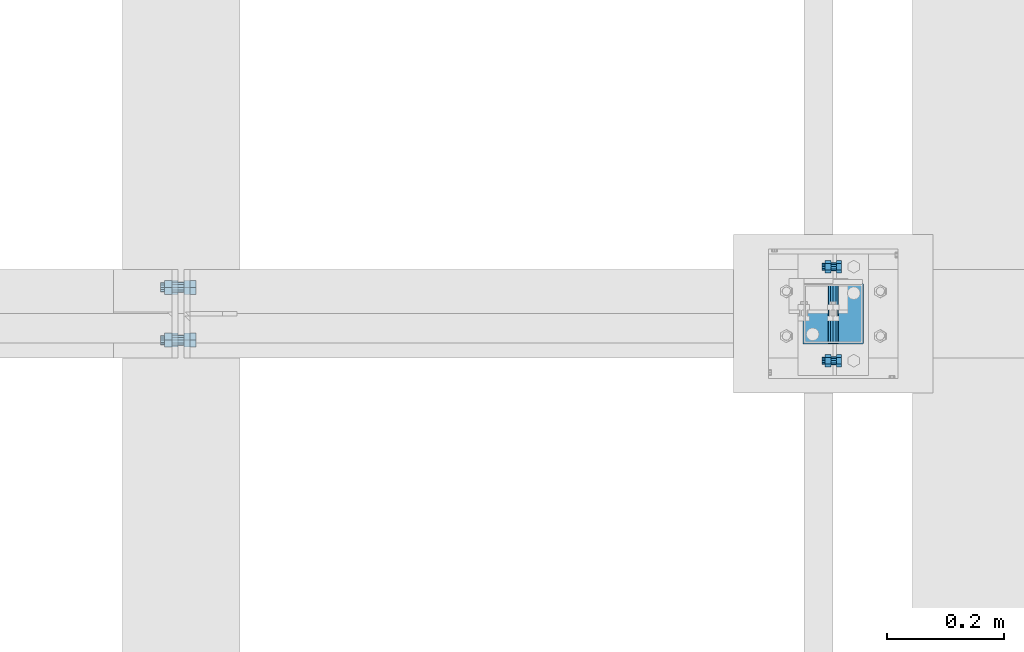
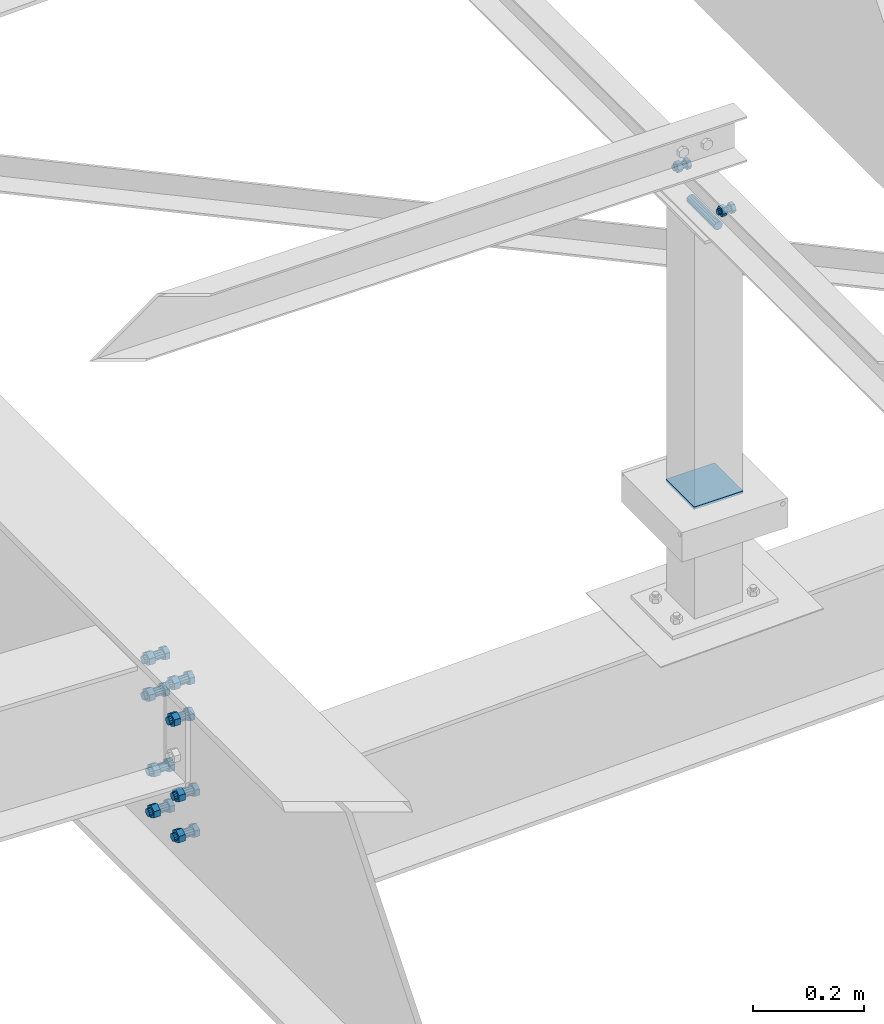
# One storey, part 174 of 3134: 7 mechanical fasteners, 3 elements without a shape of their own.
"""IFC2X3 building model written with IfcOpenShell, lengths in millimetres."""

import ifcopenshell
import ifcopenshell.guid

model = None  # the IFC model being written
_history = None  # IfcOwnerHistory: only IFC2X3 demands one
_inside = {}  # id of a spatial element -> (the spatial element, [elements in it])
_under = {}  # id of a project, library or spatial element -> (it, [spatial elements below it])
_declared = {}  # id of a project -> (the project, [libraries it declares])
_typed = {}  # id of a type object -> (the type object, [elements of that type])
_made_of = {}  # id of a material, layer set ... -> (it, [elements and type objects made of it])


def new_model(schema):
    """Start an empty IFC model of exactly this schema.

    Asked for "IFC4X3", IfcOpenShell would pick the latest addendum, in which some entities
    have other attributes; the version numbers below select the first issue.
    IFC2X3 requires an IfcOwnerHistory on every rooted entity: one is made here for all.
    """
    global model, _history
    if schema == "IFC4X3":
        model = ifcopenshell.file(schema_version=(4, 3, 0, 0))
    else:
        model = ifcopenshell.file(schema=schema)
    _inside.clear()
    _under.clear()
    _declared.clear()
    _typed.clear()
    _made_of.clear()
    _history = None
    if model.schema == "IFC2X3":
        org = make("IfcOrganization", Name="unknown")
        user = make(
            "IfcPersonAndOrganization",
            ThePerson=make("IfcPerson", FamilyName="unknown"),
            TheOrganization=org,
        )
        app = make(
            "IfcApplication",
            ApplicationDeveloper=org,
            Version="unknown",
            ApplicationFullName="unknown",
            ApplicationIdentifier="unknown",
        )
        _history = make(
            "IfcOwnerHistory",
            OwningUser=user,
            OwningApplication=app,
            ChangeAction="ADDED",
            CreationDate=0,
        )
    return model


def make(cls, **values):
    """One entity of the class cls with the attributes given. An attribute that is None is left unset."""
    return model.create_entity(
        cls, **{name: value for name, value in values.items() if value is not None}
    )


def rooted(cls, **values):
    """An entity with a GlobalId (a new one), such as an element, a storey or a relation."""
    return make(cls, GlobalId=ifcopenshell.guid.new(), OwnerHistory=_history, **values)


def si_unit(unit_type, name, prefix=None):
    """IfcSIUnit, for example si_unit("LENGTHUNIT", "METRE", prefix="MILLI")."""
    return make("IfcSIUnit", UnitType=unit_type, Prefix=prefix, Name=name)


def assignment(units):
    """IfcUnitAssignment: the units of a project."""
    return None if units is None else make("IfcUnitAssignment", Units=units)


def point(xyz):
    """IfcCartesianPoint."""
    return None if xyz is None else make("IfcCartesianPoint", Coordinates=xyz)


def direction(xyz):
    """IfcDirection."""
    return None if xyz is None else make("IfcDirection", DirectionRatios=xyz)


def frame(location, z_axis=None, x_axis=None):
    """IfcAxis2Placement3D, a coordinate frame: its origin and axes. An axis left out is left unset."""
    return make(
        "IfcAxis2Placement3D",
        Location=point(location),
        Axis=direction(z_axis),
        RefDirection=direction(x_axis),
    )


def origin_with_axes():
    """The frame at (0, 0, 0) with the z axis (0, 0, 1) and the x axis (1, 0, 0) written out."""
    return frame((0.0, 0.0, 0.0), z_axis=(0.0, 0.0, 1.0), x_axis=(1.0, 0.0, 0.0))


def place(relative_to, where):
    """IfcLocalPlacement: puts the frame where relative to a parent placement (None: the world)."""
    return make(
        "IfcLocalPlacement", PlacementRelTo=relative_to, RelativePlacement=where
    )


def context(
    kind, dimensions, precision=None, world=None, true_north=None, identifier=None
):
    """IfcGeometricRepresentationContext, for example the 3D "Model" context."""
    return make(
        "IfcGeometricRepresentationContext",
        ContextIdentifier=identifier,
        ContextType=kind,
        CoordinateSpaceDimension=dimensions,
        Precision=precision,
        WorldCoordinateSystem=world,
        TrueNorth=true_north,
    )


def subcontext(parent, identifier, kind, view, scale=None):
    """IfcGeometricRepresentationSubContext, for example "Body" below "Model"."""
    return make(
        "IfcGeometricRepresentationSubContext",
        ContextIdentifier=identifier,
        ContextType=kind,
        ParentContext=parent,
        TargetScale=scale,
        TargetView=view,
    )


def project(units=None, contexts=None):
    """IfcProject with its units and contexts."""
    return rooted(
        "IfcProject",
        Name="project",
        RepresentationContexts=contexts,
        UnitsInContext=assignment(units),
    )


def spatial(cls, under=None, at=None, **own):
    """A site, building, storey or space (cls), placed at a placement, below another one or the project."""
    s = rooted(cls, ObjectPlacement=at, **own)
    if under is not None:
        _under.setdefault(under.id(), (under, []))[1].append(s)
    return s


def faces_of(points, faces, orient=None, outer=None):
    """IfcFace entities. A face is a list of loops; a loop is a list of indices into points, from 0.

    orient and outer hold one flag for each loop. By default every Orientation is true, the
    first loop of a face is its IfcFaceOuterBound and the others are IfcFaceBound.
    """
    made = []
    for i, loops in enumerate(faces):
        bounds = []
        for j, loop in enumerate(loops):
            is_outer = j == 0 if outer is None else outer[i][j]
            bounds.append(
                make(
                    "IfcFaceOuterBound" if is_outer else "IfcFaceBound",
                    Bound=make("IfcPolyLoop", Polygon=[points[k] for k in loop]),
                    Orientation=True if orient is None else orient[i][j],
                )
            )
        made.append(make("IfcFace", Bounds=bounds))
    return made


def faceted_brep(points, faces, orient=None, outer=None, voids=None):
    """IfcFacetedBrep: a solid bounded by flat faces; with voids (closed shells), ...WithVoids."""
    shared = [point(p) for p in points]
    hull = make("IfcClosedShell", CfsFaces=faces_of(shared, faces, orient, outer))
    if voids is None:
        return make("IfcFacetedBrep", Outer=hull)
    return make(
        "IfcFacetedBrepWithVoids",
        Outer=hull,
        Voids=[
            make(cls, CfsFaces=faces_of(shared, fs, o, b)) for cls, fs, o, b in voids
        ],
    )


def shape(context_of_items, identifier, shape_type, items):
    """IfcShapeRepresentation: the items that make up one representation, for example the "Body"."""
    return make(
        "IfcShapeRepresentation",
        ContextOfItems=context_of_items,
        RepresentationIdentifier=identifier,
        RepresentationType=shape_type,
        Items=items,
    )


def source(mapping_origin, context_of_items, identifier, shape_type, items):
    """IfcRepresentationMap: a shape defined once, which mapped items show again and again."""
    return make(
        "IfcRepresentationMap",
        MappingOrigin=mapping_origin,
        MappedRepresentation=shape(context_of_items, identifier, shape_type, items),
    )


def transform(
    local_origin,
    x_axis=None,
    y_axis=None,
    z_axis=None,
    scale=None,
    scale2=None,
    scale3=None,
    uniform=True,
):
    """IfcCartesianTransformationOperator3D, or its non-uniform kind. x_axis, y_axis, z_axis: its Axis1, 2, 3."""
    if uniform:
        return make(
            "IfcCartesianTransformationOperator3D",
            Axis1=direction(x_axis),
            Axis2=direction(y_axis),
            LocalOrigin=point(local_origin),
            Scale=scale,
            Axis3=direction(z_axis),
        )
    return make(
        "IfcCartesianTransformationOperator3DnonUniform",
        Axis1=direction(x_axis),
        Axis2=direction(y_axis),
        LocalOrigin=point(local_origin),
        Scale=scale,
        Axis3=direction(z_axis),
        Scale2=scale2,
        Scale3=scale3,
    )


def mapped(mapping_source, mapping_target):
    """IfcMappedItem: shows the shape of a source again, moved by a transform."""
    return make(
        "IfcMappedItem", MappingSource=mapping_source, MappingTarget=mapping_target
    )


def material(Name=None, Category=None):
    """IfcMaterial."""
    return make("IfcMaterial", Name=Name, Category=Category)


def made_of(thing, what):
    """Note that an element or type object is made of a material, layer set ...; save() writes the relation."""
    if what is not None:
        _made_of.setdefault(what.id(), (what, []))[1].append(thing)
    return thing


def type_object(cls, material=None, **own):
    """A type object (cls), such as IfcWallType, which elements share."""
    return made_of(rooted(cls, **own), material)


def element(
    cls,
    number,
    at=None,
    inside=None,
    cuts=None,
    type_object=None,
    material=None,
    context=None,
    identifier="Body",
    shape_type=None,
    held_by="IfcProductDefinitionShape",
    body=None,
    shapes=None,
    **own,
):
    """One element of the class cls, such as IfcWall. Its Tag is "e" and its number.

    at: its placement. inside: the storey or other place that contains it. cuts: it is an
    opening in that element (IfcRelVoidsElement). A single representation is given by context,
    identifier, shape_type and body (its items); several are given by shapes. held_by: the class
    of the entity that holds the representations. save() writes the other relations.
    """
    e = rooted(cls, Tag="e%d" % number, ObjectPlacement=at, **own)
    if body is not None:
        shapes = [shape(context, identifier, shape_type, body)]
    if shapes is not None:
        e.Representation = make(held_by, Representations=shapes)
    if inside is not None:
        _inside.setdefault(inside.id(), (inside, []))[1].append(e)
    if cuts is not None:
        rooted(
            "IfcRelVoidsElement", RelatingBuildingElement=cuts, RelatedOpeningElement=e
        )
    if type_object is not None:
        _typed.setdefault(type_object.id(), (type_object, []))[1].append(e)
    return made_of(e, material)


def aggregate(whole, parts):
    """IfcRelAggregates: a whole, such as a stair, and the parts it consists of."""
    return rooted("IfcRelAggregates", RelatingObject=whole, RelatedObjects=parts)


def save(model, path):
    """Write the relations noted so far, then the file.

    IfcRelAggregates (storeys below a building ...), IfcRelContainedInSpatialStructure (elements
    in a storey), IfcRelDefinesByType, IfcRelAssociatesMaterial and IfcRelDeclares: one each for
    every whole, place, type object, material and project.
    """
    for whole, parts in _under.values():
        aggregate(whole, parts)
    for where, things in _inside.values():
        rooted(
            "IfcRelContainedInSpatialStructure",
            RelatedElements=things,
            RelatingStructure=where,
        )
    for kind, things in _typed.values():
        rooted("IfcRelDefinesByType", RelatedObjects=things, RelatingType=kind)
    for what, things in _made_of.values():
        rooted("IfcRelAssociatesMaterial", RelatedObjects=things, RelatingMaterial=what)
    for by, libraries in _declared.values():
        rooted("IfcRelDeclares", RelatingContext=by, RelatedDefinitions=libraries)
    model.write(path)


model = new_model("IFC2X3")

# Units and contexts
model_context = context("Model", 3, precision=1e-05, world=origin_with_axes())
body_context = subcontext(model_context, "Body", "Model", "MODEL_VIEW")
ifc_project = project(units=[si_unit("LENGTHUNIT", "METRE", prefix="MILLI"), si_unit("AREAUNIT", "SQUARE_METRE"), si_unit("VOLUMEUNIT", "CUBIC_METRE"), si_unit("MASSUNIT", "GRAM", prefix="KILO"), si_unit("TIMEUNIT", "SECOND"), si_unit("PLANEANGLEUNIT", "RADIAN"), si_unit("SOLIDANGLEUNIT", "STERADIAN"), si_unit("THERMODYNAMICTEMPERATUREUNIT", "DEGREE_CELSIUS"), si_unit("LUMINOUSINTENSITYUNIT", "LUMEN")], contexts=[model_context])

# Site, building, storey
site_placement = place(None, origin_with_axes())
site = spatial("IfcSite", under=ifc_project, at=site_placement, CompositionType="ELEMENT")
building_placement = place(site_placement, origin_with_axes())
building = spatial("IfcBuilding", under=site, at=building_placement, Name="Undefined", CompositionType="ELEMENT")
storey_placement = place(building_placement, origin_with_axes())
storey = spatial("IfcBuildingStorey", under=building, at=storey_placement, Name="Undefined", CompositionType="ELEMENT", Elevation=0.0)

# Assembly, mechanical fastener
assembly_1_placement = place(storey_placement, origin_with_axes())
assembly_1 = element("IfcElementAssembly", 1, at=assembly_1_placement, inside=storey, AssemblyPlace="NOTDEFINED", PredefinedType="RIGID_FRAME")
ifc_material_1 = material(Name="8.8")
mechanical_fastener_type = type_object("IfcMechanicalFastenerType", Name="Bolt assembly")
shared_shape_1 = source(origin_with_axes(), body_context, "Body", "Brep", [
    faceted_brep([(10.9696551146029, -14.0, 0.0), (5.48482755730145, -14.0, 9.5), (-5.48482755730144, -14.0, 9.5), (-10.9696551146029, -14.0, 1.34339530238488e-15), (-5.48482755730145, -14.0, -9.5), (5.48482755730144, -14.0, -9.50000000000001), (5.48482755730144, -6.0, -9.50000000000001), (-5.48482755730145, -6.0, -9.5), (-10.9696551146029, -6.0, 1.34339530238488e-15), (-5.48482755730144, -6.0, 9.5), (5.48482755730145, -6.0, 9.5), (10.9696551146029, -6.0, 0.0), (6.0, -6.0, 0.0), (5.19615242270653, -6.0, 3.00000000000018), (2.99999999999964, -6.0, 5.19615242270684), (-6.21801588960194e-13, -6.0, 6.0), (-3.00000000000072, -6.0, 5.19615242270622), (-5.19615242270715, -6.0, 2.9999999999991), (-6.0, -6.0, -1.24360317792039e-12), (-5.19615242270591, -6.0, -3.00000000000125), (-2.99999999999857, -6.0, -5.19615242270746), (1.85874342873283e-12, -6.0, -6.0), (3.00000000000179, -6.0, -5.1961524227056), (5.19615242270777, -6.0, -2.99999999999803), (5.19615242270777, 19.0, -2.99999999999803), (3.00000000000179, 19.0, -5.1961524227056), (1.85874342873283e-12, 19.0, -6.0), (-2.99999999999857, 19.0, -5.19615242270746), (-5.19615242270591, 19.0, -3.00000000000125), (-6.0, 19.0, -1.24360317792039e-12), (-5.19615242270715, 19.0, 2.9999999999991), (-3.00000000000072, 19.0, 5.19615242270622), (-6.21801588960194e-13, 19.0, 6.0), (2.99999999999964, 19.0, 5.19615242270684), (5.19615242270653, 19.0, 3.00000000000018), (6.0, 19.0, 0.0), (10.9696551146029, 4.00000000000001, 0.0), (5.48482755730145, 4.00000000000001, 9.5), (-5.48482755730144, 4.00000000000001, 9.5), (-10.9696551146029, 4.00000000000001, 1.34339530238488e-15), (-5.48482755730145, 4.00000000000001, -9.5), (5.48482755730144, 4.00000000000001, -9.50000000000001), (5.48482755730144, 14.0, -9.50000000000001), (-5.48482755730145, 14.0, -9.5), (-10.9696551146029, 14.0, 1.34339530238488e-15), (-5.48482755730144, 14.0, 9.5), (5.48482755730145, 14.0, 9.5), (10.9696551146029, 14.0, 0.0)], [[[0, 1, 2, 3, 4, 5]], [[6, 7, 8, 9, 10, 11]], [[0, 11, 10, 1]], [[1, 10, 9, 2]], [[2, 9, 8, 3]], [[3, 8, 7, 4]], [[4, 7, 6, 5]], [[5, 6, 11, 0]], [[12, 13, 14, 15, 16, 17, 18, 19, 20, 21, 22, 23]], [[24, 25, 26, 27, 28, 29, 30, 31, 32, 33, 34, 35]], [[12, 35, 34, 13]], [[13, 34, 33, 14]], [[14, 33, 32, 15]], [[15, 32, 31, 16]], [[16, 31, 30, 17]], [[17, 30, 29, 18]], [[18, 29, 28, 19]], [[19, 28, 27, 20]], [[20, 27, 26, 21]], [[21, 26, 25, 22]], [[22, 25, 24, 23]], [[23, 24, 35, 12]], [[36, 37, 38, 39, 40, 41]], [[42, 43, 44, 45, 46, 47]], [[36, 47, 46, 37]], [[37, 46, 45, 38]], [[38, 45, 44, 39]], [[39, 44, 43, 40]], [[40, 43, 42, 41]], [[41, 42, 47, 36]]]),
    faceted_brep([(7.0, -0.1, 0.0), (6.06217782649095, -0.1, 3.50000000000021), (3.49999999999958, -0.1, 6.06217782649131), (-7.25435187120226e-13, -0.1, 7.0), (-3.50000000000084, -0.1, 6.06217782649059), (-6.06217782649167, -0.1, 3.49999999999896), (-7.0, -0.1, -1.45087037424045e-12), (-6.06217782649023, -0.1, -3.50000000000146), (-3.49999999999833, -0.1, -6.06217782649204), (2.1685340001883e-12, -0.1, -7.0), (3.50000000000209, -0.1, -6.06217782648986), (6.0621778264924, -0.1, -3.4999999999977), (6.0621778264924, 4.00000000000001, -3.4999999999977), (3.50000000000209, 4.00000000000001, -6.06217782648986), (2.1685340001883e-12, 4.00000000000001, -7.0), (-3.49999999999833, 4.00000000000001, -6.06217782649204), (-6.06217782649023, 4.00000000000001, -3.50000000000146), (-7.0, 4.00000000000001, -1.45087037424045e-12), (-6.06217782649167, 4.00000000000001, 3.49999999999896), (-3.50000000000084, 4.00000000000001, 6.06217782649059), (-7.25435187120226e-13, 4.00000000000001, 7.0), (3.49999999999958, 4.00000000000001, 6.06217782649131), (6.06217782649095, 4.00000000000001, 3.50000000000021), (7.0, 4.00000000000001, 0.0), (7.0, -5.9, 0.0), (6.06217782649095, -5.9, 3.50000000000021), (3.49999999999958, -5.9, 6.06217782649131), (-7.25435187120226e-13, -5.9, 7.0), (-3.50000000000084, -5.9, 6.06217782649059), (-6.06217782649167, -5.9, 3.49999999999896), (-7.0, -5.9, -1.45087037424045e-12), (-6.06217782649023, -5.9, -3.50000000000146), (-3.49999999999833, -5.9, -6.06217782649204), (2.1685340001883e-12, -5.9, -7.0), (3.50000000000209, -5.9, -6.06217782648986), (6.0621778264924, -5.9, -3.4999999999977), (6.0621778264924, 0.0999999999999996, -3.4999999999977), (3.50000000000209, 0.0999999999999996, -6.06217782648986), (2.1685340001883e-12, 0.0999999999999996, -7.0), (-3.49999999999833, 0.0999999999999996, -6.06217782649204), (-6.06217782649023, 0.0999999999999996, -3.50000000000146), (-7.0, 0.0999999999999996, -1.45087037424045e-12), (-6.06217782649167, 0.0999999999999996, 3.49999999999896), (-3.50000000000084, 0.0999999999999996, 6.06217782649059), (-7.25435187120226e-13, 0.0999999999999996, 7.0), (3.49999999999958, 0.0999999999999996, 6.06217782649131), (6.06217782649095, 0.0999999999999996, 3.50000000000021), (7.0, 0.0999999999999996, 0.0)], [[[0, 1, 2, 3, 4, 5, 6, 7, 8, 9, 10, 11]], [[12, 13, 14, 15, 16, 17, 18, 19, 20, 21, 22, 23]], [[0, 23, 22, 1]], [[1, 22, 21, 2]], [[2, 21, 20, 3]], [[3, 20, 19, 4]], [[4, 19, 18, 5]], [[5, 18, 17, 6]], [[6, 17, 16, 7]], [[7, 16, 15, 8]], [[8, 15, 14, 9]], [[9, 14, 13, 10]], [[10, 13, 12, 11]], [[11, 12, 23, 0]], [[24, 25, 26, 27, 28, 29, 30, 31, 32, 33, 34, 35]], [[36, 37, 38, 39, 40, 41, 42, 43, 44, 45, 46, 47]], [[24, 47, 46, 25]], [[25, 46, 45, 26]], [[26, 45, 44, 27]], [[27, 44, 43, 28]], [[28, 43, 42, 29]], [[29, 42, 41, 30]], [[30, 41, 40, 31]], [[31, 40, 39, 32]], [[32, 39, 38, 33]], [[33, 38, 37, 34]], [[34, 37, 36, 35]], [[35, 36, 47, 24]]]),
])
mechanical_fastener_1_placement = place(assembly_1_placement, frame((10405.0, 32163.75, 4300.0), z_axis=(0.0, 0.0, 1.0), x_axis=(0.0, 1.0, 0.0)))
mechanical_fastener_1 = element("IfcMechanicalFastener", 2, at=mechanical_fastener_1_placement, type_object=mechanical_fastener_type, material=ifc_material_1, Name="Bolt assembly", NominalDiameter=12.0, NominalLength=25.0, context=body_context, shape_type="MappedRepresentation", body=[
    mapped(shared_shape_1, transform((0.0, 0.0, 0.0))),
    mapped(shared_shape_1, transform((160.0, 0.0, 0.0))),
])
aggregate(assembly_1, [mechanical_fastener_1])

# Assembly, mechanical fasteners
assembly_2_placement = place(storey_placement, origin_with_axes())
assembly_2 = element("IfcElementAssembly", 3, at=assembly_2_placement, inside=storey, Name="IPE500", AssemblyPlace="NOTDEFINED", PredefinedType="RIGID_FRAME")
shared_shape_2 = source(origin_with_axes(), body_context, "Body", "Brep", [
    faceted_brep([(13.856406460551, 0.0, 0.0), (6.92820323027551, 0.0, 12.0), (-6.92820323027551, 0.0, 12.0), (-13.856406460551, 0.0, 1.69692038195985e-15), (-6.92820323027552, 0.0, -12.0), (6.9282032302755, 0.0, -12.0), (6.9282032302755, 9.99999995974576, -12.0), (-6.92820323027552, 9.99999995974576, -12.0), (-13.856406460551, 9.99999995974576, 1.69692038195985e-15), (-6.92820323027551, 9.99999995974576, 12.0), (6.92820323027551, 9.99999995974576, 12.0), (13.856406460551, 9.99999995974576, 0.0), (8.0, 9.99999995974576, 0.0), (6.92820323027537, 9.99999995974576, 4.00000000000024), (3.99999999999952, 9.99999995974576, 6.92820323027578), (-8.29068785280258e-13, 9.99999995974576, 8.0), (-4.00000000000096, 9.99999995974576, 6.92820323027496), (-6.9282032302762, 9.99999995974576, 3.99999999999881), (-8.0, 9.99999995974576, -1.65813757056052e-12), (-6.92820323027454, 9.99999995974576, -4.00000000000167), (-3.99999999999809, 9.99999995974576, -6.92820323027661), (2.47832457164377e-12, 9.99999995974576, -8.0), (4.00000000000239, 9.99999995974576, -6.92820323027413), (6.92820323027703, 9.99999995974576, -3.99999999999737), (6.92820323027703, 49.9999999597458, -3.99999999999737), (4.00000000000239, 49.9999999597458, -6.92820323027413), (2.47832457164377e-12, 49.9999999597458, -8.0), (-3.99999999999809, 49.9999999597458, -6.92820323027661), (-6.92820323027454, 49.9999999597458, -4.00000000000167), (-8.0, 49.9999999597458, -1.65813757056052e-12), (-6.9282032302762, 49.9999999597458, 3.99999999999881), (-4.00000000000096, 49.9999999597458, 6.92820323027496), (-8.29068785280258e-13, 49.9999999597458, 8.0), (3.99999999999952, 49.9999999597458, 6.92820323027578), (6.92820323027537, 49.9999999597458, 4.00000000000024), (8.0, 49.9999999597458, 0.0), (13.856406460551, 30.1999997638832, 0.0), (6.92820323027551, 30.1999997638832, 12.0), (-6.92820323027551, 30.1999997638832, 12.0), (-13.856406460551, 30.1999997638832, 1.69692038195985e-15), (-6.92820323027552, 30.1999997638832, -12.0), (6.9282032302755, 30.1999997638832, -12.0), (6.9282032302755, 43.1999997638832, -12.0), (-6.92820323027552, 43.1999997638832, -12.0), (-13.856406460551, 43.1999997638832, 1.69692038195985e-15), (-6.92820323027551, 43.1999997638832, 12.0), (6.92820323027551, 43.1999997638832, 12.0), (13.856406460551, 43.1999997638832, 0.0)], [[[0, 1, 2, 3, 4, 5]], [[6, 7, 8, 9, 10, 11]], [[0, 11, 10, 1]], [[1, 10, 9, 2]], [[2, 9, 8, 3]], [[3, 8, 7, 4]], [[4, 7, 6, 5]], [[5, 6, 11, 0]], [[12, 13, 14, 15, 16, 17, 18, 19, 20, 21, 22, 23]], [[24, 25, 26, 27, 28, 29, 30, 31, 32, 33, 34, 35]], [[12, 35, 34, 13]], [[13, 34, 33, 14]], [[14, 33, 32, 15]], [[15, 32, 31, 16]], [[16, 31, 30, 17]], [[17, 30, 29, 18]], [[18, 29, 28, 19]], [[19, 28, 27, 20]], [[20, 27, 26, 21]], [[21, 26, 25, 22]], [[22, 25, 24, 23]], [[23, 24, 35, 12]], [[36, 37, 38, 39, 40, 41]], [[42, 43, 44, 45, 46, 47]], [[36, 47, 46, 37]], [[37, 46, 45, 38]], [[38, 45, 44, 39]], [[39, 44, 43, 40]], [[40, 43, 42, 41]], [[41, 42, 47, 36]]]),
    faceted_brep([(9.0, 20.0999997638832, 0.0), (7.79422863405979, 20.0999997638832, 4.50000000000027), (4.49999999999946, 20.0999997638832, 7.79422863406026), (-9.3270238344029e-13, 20.0999997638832, 9.0), (-4.50000000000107, 20.0999997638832, 7.79422863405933), (-7.79422863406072, 20.0999997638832, 4.49999999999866), (-9.0, 20.0999997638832, -1.86540476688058e-12), (-7.79422863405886, 20.0999997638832, -4.50000000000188), (-4.49999999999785, 20.0999997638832, -7.79422863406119), (2.78811514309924e-12, 20.0999997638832, -9.0), (4.50000000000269, 20.0999997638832, -7.7942286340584), (7.79422863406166, 20.0999997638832, -4.49999999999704), (7.79422863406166, 30.1999997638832, -4.49999999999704), (4.50000000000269, 30.1999997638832, -7.7942286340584), (2.78811514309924e-12, 30.1999997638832, -9.0), (-4.49999999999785, 30.1999997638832, -7.79422863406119), (-7.79422863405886, 30.1999997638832, -4.50000000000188), (-9.0, 30.1999997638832, -1.86540476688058e-12), (-7.79422863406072, 30.1999997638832, 4.49999999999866), (-4.50000000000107, 30.1999997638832, 7.79422863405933), (-9.3270238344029e-13, 30.1999997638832, 9.0), (4.49999999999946, 30.1999997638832, 7.79422863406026), (7.79422863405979, 30.1999997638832, 4.50000000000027), (9.0, 30.1999997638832, 0.0), (9.0, 10.1000023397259, 0.0), (7.79422863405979, 10.1000023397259, 4.50000000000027), (4.49999999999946, 10.1000023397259, 7.79422863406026), (-9.3270238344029e-13, 10.1000023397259, 9.0), (-4.50000000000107, 10.1000023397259, 7.79422863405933), (-7.79422863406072, 10.1000023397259, 4.49999999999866), (-9.0, 10.1000023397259, -1.86540476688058e-12), (-7.79422863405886, 10.1000023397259, -4.50000000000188), (-4.49999999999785, 10.1000023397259, -7.79422863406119), (2.78811514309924e-12, 10.1000023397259, -9.0), (4.50000000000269, 10.1000023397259, -7.7942286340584), (7.79422863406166, 10.1000023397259, -4.49999999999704), (7.79422863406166, 20.2999997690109, -4.49999999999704), (4.50000000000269, 20.2999997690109, -7.7942286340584), (2.78811514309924e-12, 20.2999997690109, -9.0), (-4.49999999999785, 20.2999997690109, -7.79422863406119), (-7.79422863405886, 20.2999997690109, -4.50000000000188), (-9.0, 20.2999997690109, -1.86540476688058e-12), (-7.79422863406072, 20.2999997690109, 4.49999999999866), (-4.50000000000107, 20.2999997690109, 7.79422863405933), (-9.3270238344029e-13, 20.2999997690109, 9.0), (4.49999999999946, 20.2999997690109, 7.79422863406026), (7.79422863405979, 20.2999997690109, 4.50000000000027), (9.0, 20.2999997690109, 0.0)], [[[0, 1, 2, 3, 4, 5, 6, 7, 8, 9, 10, 11]], [[12, 13, 14, 15, 16, 17, 18, 19, 20, 21, 22, 23]], [[0, 23, 22, 1]], [[1, 22, 21, 2]], [[2, 21, 20, 3]], [[3, 20, 19, 4]], [[4, 19, 18, 5]], [[5, 18, 17, 6]], [[6, 17, 16, 7]], [[7, 16, 15, 8]], [[8, 15, 14, 9]], [[9, 14, 13, 10]], [[10, 13, 12, 11]], [[11, 12, 23, 0]], [[24, 25, 26, 27, 28, 29, 30, 31, 32, 33, 34, 35]], [[36, 37, 38, 39, 40, 41, 42, 43, 44, 45, 46, 47]], [[24, 47, 46, 25]], [[25, 46, 45, 26]], [[26, 45, 44, 27]], [[27, 44, 43, 28]], [[28, 43, 42, 29]], [[29, 42, 41, 30]], [[30, 41, 40, 31]], [[31, 40, 39, 32]], [[32, 39, 38, 33]], [[33, 38, 37, 34]], [[34, 37, 36, 35]], [[35, 36, 47, 24]]]),
])
mechanical_fastener_2_placement = place(assembly_2_placement, frame((9310.09999986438, 32198.75, 3631.67000001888), z_axis=(0.0, 1.0, 0.0), x_axis=(0.0, 0.0, -1.0)))
mechanical_fastener_2 = element("IfcMechanicalFastener", 4, at=mechanical_fastener_2_placement, type_object=mechanical_fastener_type, material=ifc_material_1, Name="Bolt assembly", NominalDiameter=16.0, NominalLength=40.0, context=body_context, shape_type="MappedRepresentation", body=[
    mapped(shared_shape_2, transform((0.0, 0.0, 0.0))),
    mapped(shared_shape_2, transform((80.0, 0.0, 0.0))),
])
mechanical_fastener_3_placement = place(assembly_2_placement, frame((9310.09999986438, 32288.75, 3631.67000001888), z_axis=(0.0, 1.0, 0.0), x_axis=(0.0, 0.0, -1.0)))
mechanical_fastener_3 = element("IfcMechanicalFastener", 5, at=mechanical_fastener_3_placement, type_object=mechanical_fastener_type, material=ifc_material_1, Name="Bolt assembly", NominalDiameter=16.0, NominalLength=40.0, context=body_context, shape_type="MappedRepresentation", body=[
    mapped(shared_shape_2, transform((0.0, 0.0, 0.0))),
    mapped(shared_shape_2, transform((80.0, 0.0, 0.0))),
])
shared_shape_3 = source(origin_with_axes(), body_context, "Body", "Brep", [
    faceted_brep([(13.856406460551, -10.0, 0.0), (6.92820323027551, -10.0, 12.0), (-6.92820323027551, -10.0, 12.0), (-13.856406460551, -10.0, 1.69692038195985e-15), (-6.92820323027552, -10.0, -12.0), (6.9282032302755, -10.0, -12.0), (6.9282032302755, 0.0, -12.0), (-6.92820323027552, 0.0, -12.0), (-13.856406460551, 0.0, 1.69692038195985e-15), (-6.92820323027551, 0.0, 12.0), (6.92820323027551, 0.0, 12.0), (13.856406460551, 0.0, 0.0), (8.0, 0.0, 0.0), (6.92820323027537, 0.0, 4.00000000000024), (3.99999999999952, 0.0, 6.92820323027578), (-8.29068785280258e-13, 0.0, 8.0), (-4.00000000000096, 0.0, 6.92820323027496), (-6.9282032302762, 0.0, 3.99999999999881), (-8.0, 0.0, -1.65813757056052e-12), (-6.92820323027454, 0.0, -4.00000000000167), (-3.99999999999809, 0.0, -6.92820323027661), (2.47832457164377e-12, 0.0, -8.0), (4.00000000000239, 0.0, -6.92820323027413), (6.92820323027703, 0.0, -3.99999999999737), (6.92820323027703, 40.0, -3.99999999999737), (4.00000000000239, 40.0, -6.92820323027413), (2.47832457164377e-12, 40.0, -8.0), (-3.99999999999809, 40.0, -6.92820323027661), (-6.92820323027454, 40.0, -4.00000000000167), (-8.0, 40.0, -1.65813757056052e-12), (-6.9282032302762, 40.0, 3.99999999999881), (-4.00000000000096, 40.0, 6.92820323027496), (-8.29068785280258e-13, 40.0, 8.0), (3.99999999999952, 40.0, 6.92820323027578), (6.92820323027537, 40.0, 4.00000000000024), (8.0, 40.0, 0.0), (13.856406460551, 20.1999997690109, 0.0), (6.92820323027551, 20.1999997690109, 12.0), (-6.92820323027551, 20.1999997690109, 12.0), (-13.856406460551, 20.1999997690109, 1.69692038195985e-15), (-6.92820323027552, 20.1999997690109, -12.0), (6.9282032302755, 20.1999997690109, -12.0), (6.9282032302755, 33.1999997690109, -12.0), (-6.92820323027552, 33.1999997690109, -12.0), (-13.856406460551, 33.1999997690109, 1.69692038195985e-15), (-6.92820323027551, 33.1999997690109, 12.0), (6.92820323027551, 33.1999997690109, 12.0), (13.856406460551, 33.1999997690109, 0.0)], [[[0, 1, 2, 3, 4, 5]], [[6, 7, 8, 9, 10, 11]], [[0, 11, 10, 1]], [[1, 10, 9, 2]], [[2, 9, 8, 3]], [[3, 8, 7, 4]], [[4, 7, 6, 5]], [[5, 6, 11, 0]], [[12, 13, 14, 15, 16, 17, 18, 19, 20, 21, 22, 23]], [[24, 25, 26, 27, 28, 29, 30, 31, 32, 33, 34, 35]], [[12, 35, 34, 13]], [[13, 34, 33, 14]], [[14, 33, 32, 15]], [[15, 32, 31, 16]], [[16, 31, 30, 17]], [[17, 30, 29, 18]], [[18, 29, 28, 19]], [[19, 28, 27, 20]], [[20, 27, 26, 21]], [[21, 26, 25, 22]], [[22, 25, 24, 23]], [[23, 24, 35, 12]], [[36, 37, 38, 39, 40, 41]], [[42, 43, 44, 45, 46, 47]], [[36, 47, 46, 37]], [[37, 46, 45, 38]], [[38, 45, 44, 39]], [[39, 44, 43, 40]], [[40, 43, 42, 41]], [[41, 42, 47, 36]]]),
    faceted_brep([(9.0, 0.100000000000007, 0.0), (7.79422863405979, 0.100000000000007, 4.50000000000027), (4.49999999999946, 0.100000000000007, 7.79422863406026), (-9.3270238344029e-13, 0.100000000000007, 9.0), (-4.50000000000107, 0.100000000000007, 7.79422863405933), (-7.79422863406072, 0.100000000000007, 4.49999999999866), (-9.0, 0.100000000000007, -1.86540476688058e-12), (-7.79422863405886, 0.100000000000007, -4.50000000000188), (-4.49999999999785, 0.100000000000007, -7.79422863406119), (2.78811514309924e-12, 0.100000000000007, -9.0), (4.50000000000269, 0.100000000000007, -7.7942286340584), (7.79422863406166, 0.100000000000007, -4.49999999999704), (7.79422863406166, 10.1000023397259, -4.49999999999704), (4.50000000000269, 10.1000023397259, -7.7942286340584), (2.78811514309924e-12, 10.1000023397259, -9.0), (-4.49999999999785, 10.1000023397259, -7.79422863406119), (-7.79422863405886, 10.1000023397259, -4.50000000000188), (-9.0, 10.1000023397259, -1.86540476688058e-12), (-7.79422863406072, 10.1000023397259, 4.49999999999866), (-4.50000000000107, 10.1000023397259, 7.79422863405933), (-9.3270238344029e-13, 10.1000023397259, 9.0), (4.49999999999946, 10.1000023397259, 7.79422863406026), (7.79422863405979, 10.1000023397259, 4.50000000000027), (9.0, 10.1000023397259, 0.0), (9.0, 9.89999999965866, 0.0), (7.79422863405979, 9.89999999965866, 4.50000000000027), (4.49999999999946, 9.89999999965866, 7.79422863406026), (-9.3270238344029e-13, 9.89999999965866, 9.0), (-4.50000000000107, 9.89999999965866, 7.79422863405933), (-7.79422863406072, 9.89999999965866, 4.49999999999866), (-9.0, 9.89999999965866, -1.86540476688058e-12), (-7.79422863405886, 9.89999999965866, -4.50000000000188), (-4.49999999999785, 9.89999999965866, -7.79422863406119), (2.78811514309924e-12, 9.89999999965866, -9.0), (4.50000000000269, 9.89999999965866, -7.7942286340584), (7.79422863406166, 9.89999999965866, -4.49999999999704), (7.79422863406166, 20.1999997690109, -4.49999999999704), (4.50000000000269, 20.1999997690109, -7.7942286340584), (2.78811514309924e-12, 20.1999997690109, -9.0), (-4.49999999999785, 20.1999997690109, -7.79422863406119), (-7.79422863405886, 20.1999997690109, -4.50000000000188), (-9.0, 20.1999997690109, -1.86540476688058e-12), (-7.79422863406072, 20.1999997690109, 4.49999999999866), (-4.50000000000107, 20.1999997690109, 7.79422863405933), (-9.3270238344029e-13, 20.1999997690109, 9.0), (4.49999999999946, 20.1999997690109, 7.79422863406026), (7.79422863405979, 20.1999997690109, 4.50000000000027), (9.0, 20.1999997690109, 0.0)], [[[0, 1, 2, 3, 4, 5, 6, 7, 8, 9, 10, 11]], [[12, 13, 14, 15, 16, 17, 18, 19, 20, 21, 22, 23]], [[0, 23, 22, 1]], [[1, 22, 21, 2]], [[2, 21, 20, 3]], [[3, 20, 19, 4]], [[4, 19, 18, 5]], [[5, 18, 17, 6]], [[6, 17, 16, 7]], [[7, 16, 15, 8]], [[8, 15, 14, 9]], [[9, 14, 13, 10]], [[10, 13, 12, 11]], [[11, 12, 23, 0]], [[24, 25, 26, 27, 28, 29, 30, 31, 32, 33, 34, 35]], [[36, 37, 38, 39, 40, 41, 42, 43, 44, 45, 46, 47]], [[24, 47, 46, 25]], [[25, 46, 45, 26]], [[26, 45, 44, 27]], [[27, 44, 43, 28]], [[28, 43, 42, 29]], [[29, 42, 41, 30]], [[30, 41, 40, 31]], [[31, 40, 39, 32]], [[32, 39, 38, 33]], [[33, 38, 37, 34]], [[34, 37, 36, 35]], [[35, 36, 47, 24]]]),
])
mechanical_fastener_4_placement = place(assembly_2_placement, frame((9310.09999986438, 32198.75, 3381.67000001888), z_axis=(0.0, 1.0, 0.0), x_axis=(0.0, 0.0, -1.0)))
mechanical_fastener_4 = element("IfcMechanicalFastener", 6, at=mechanical_fastener_4_placement, type_object=mechanical_fastener_type, material=ifc_material_1, Name="Bolt assembly", NominalDiameter=16.0, NominalLength=40.0, context=body_context, shape_type="MappedRepresentation", body=[
    mapped(shared_shape_3, transform((0.0, 0.0, 0.0))),
    mapped(shared_shape_3, transform((90.0, 0.0, 0.0))),
])
mechanical_fastener_5_placement = place(assembly_2_placement, frame((9310.09999986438, 32288.75, 3381.67000001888), z_axis=(0.0, 1.0, 0.0), x_axis=(0.0, 0.0, -1.0)))
mechanical_fastener_5 = element("IfcMechanicalFastener", 7, at=mechanical_fastener_5_placement, type_object=mechanical_fastener_type, material=ifc_material_1, Name="Bolt assembly", NominalDiameter=16.0, NominalLength=40.0, context=body_context, shape_type="MappedRepresentation", body=[
    mapped(shared_shape_3, transform((0.0, 0.0, 0.0))),
    mapped(shared_shape_3, transform((90.0, 0.0, 0.0))),
])
aggregate(assembly_2, [mechanical_fastener_4, mechanical_fastener_5, mechanical_fastener_2, mechanical_fastener_3])

assembly_3_placement = place(storey_placement, origin_with_axes())
assembly_3 = element("IfcElementAssembly", 8, at=assembly_3_placement, inside=storey, AssemblyPlace="NOTDEFINED", PredefinedType="RIGID_FRAME")
shared_shape_4 = source(origin_with_axes(), body_context, "Body", "Brep", [
    faceted_brep([(9.0, -50.0, 0.0), (7.79422863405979, -50.0, 4.50000000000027), (4.49999999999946, -50.0, 7.79422863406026), (-9.3270238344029e-13, -50.0, 9.0), (-4.50000000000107, -50.0, 7.79422863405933), (-7.79422863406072, -50.0, 4.49999999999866), (-9.0, -50.0, -1.86540476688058e-12), (-7.79422863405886, -50.0, -4.50000000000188), (-4.49999999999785, -50.0, -7.79422863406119), (2.78811514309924e-12, -50.0, -9.0), (4.50000000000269, -50.0, -7.7942286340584), (7.79422863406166, -50.0, -4.49999999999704), (7.79422863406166, 50.1, -4.49999999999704), (4.50000000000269, 50.1, -7.7942286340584), (2.78811514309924e-12, 50.1, -9.0), (-4.49999999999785, 50.1, -7.79422863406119), (-7.79422863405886, 50.1, -4.50000000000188), (-9.0, 50.1, -1.86540476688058e-12), (-7.79422863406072, 50.1, 4.49999999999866), (-4.50000000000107, 50.1, 7.79422863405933), (-9.3270238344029e-13, 50.1, 9.0), (4.49999999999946, 50.1, 7.79422863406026), (7.79422863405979, 50.1, 4.50000000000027), (9.0, 50.1, 0.0)], [[[0, 1, 2, 3, 4, 5, 6, 7, 8, 9, 10, 11]], [[12, 13, 14, 15, 16, 17, 18, 19, 20, 21, 22, 23]], [[0, 23, 22, 1]], [[1, 22, 21, 2]], [[2, 21, 20, 3]], [[3, 20, 19, 4]], [[4, 19, 18, 5]], [[5, 18, 17, 6]], [[6, 17, 16, 7]], [[7, 16, 15, 8]], [[8, 15, 14, 9]], [[9, 14, 13, 10]], [[10, 13, 12, 11]], [[11, 12, 23, 0]]]),
])
mechanical_fastener_6_placement = place(assembly_3_placement, frame((10405.0, 32243.75, 4245.0), z_axis=(-1.0, 0.0, 0.0), x_axis=(0.0, 0.0, 1.0)))
mechanical_fastener_6 = element("IfcMechanicalFastener", 9, at=mechanical_fastener_6_placement, type_object=mechanical_fastener_type, material=ifc_material_1, Name="Bolt assembly", NominalDiameter=16.0, NominalLength=100.0, context=body_context, shape_type="MappedRepresentation", body=[
    mapped(shared_shape_4, transform((0.0, 0.0, 0.0))),
])
ifc_material_2 = material(Name="6.8")
shared_shape_5 = source(origin_with_axes(), body_context, "Body", "Brep", [
    faceted_brep([(51.5, 1.36424205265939e-12, 50.0), (51.3858192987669, 1.36424205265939e-12, 50.5740251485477), (51.0606601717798, 1.36424205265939e-12, 51.0606601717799), (50.5740251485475, 1.36424205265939e-12, 51.385819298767), (-50.0000000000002, 1.36424205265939e-12, 51.5), (-50.7500000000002, 1.36424205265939e-12, 51.2990381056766), (-51.2990381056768, 1.36424205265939e-12, 50.7499999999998), (-51.5, 1.36424205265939e-12, 49.9999999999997), (-51.5, 1.36424205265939e-12, -50.0000000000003), (-51.2990381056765, 1.36424205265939e-12, -50.7500000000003), (-50.7499999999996, 1.36424205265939e-12, -51.2990381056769), (-49.9999999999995, 1.36424205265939e-12, -51.5), (50.0000000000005, 1.36424205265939e-12, -51.5), (50.7500000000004, 1.36424205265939e-12, -51.2990381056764), (51.2990381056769, 1.36424205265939e-12, -50.7499999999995), (51.5, 1.36424205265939e-12, -49.9999999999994), (51.5, 5.10000000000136, -49.9999999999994), (51.2990381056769, 5.10000000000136, -50.7499999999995), (50.7500000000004, 5.10000000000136, -51.2990381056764), (50.0000000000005, 5.10000000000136, -51.5), (-49.9999999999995, 5.10000000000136, -51.5), (-50.7499999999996, 5.10000000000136, -51.2990381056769), (-51.2990381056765, 5.10000000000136, -50.7500000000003), (-51.5, 5.10000000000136, -50.0000000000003), (-51.5, 5.10000000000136, 49.9999999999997), (-51.2990381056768, 5.10000000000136, 50.7499999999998), (-50.7500000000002, 5.10000000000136, 51.2990381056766), (-50.0000000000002, 5.10000000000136, 51.5), (50.5740251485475, 5.10000000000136, 51.385819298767), (51.0606601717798, 5.10000000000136, 51.0606601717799), (51.3858192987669, 5.10000000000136, 50.5740251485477), (51.5, 5.10000000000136, 50.0)], [[[0, 1, 2, 3, 4, 5, 6, 7, 8, 9, 10, 11, 12, 13, 14, 15]], [[16, 17, 18, 19, 20, 21, 22, 23, 24, 25, 26, 27, 28, 29, 30, 31]], [[0, 31, 30, 1]], [[1, 30, 29, 2]], [[2, 29, 28, 3]], [[3, 28, 27, 4]], [[4, 27, 26, 5]], [[5, 26, 25, 6]], [[6, 25, 24, 7]], [[7, 24, 23, 8]], [[8, 23, 22, 9]], [[9, 22, 21, 10]], [[10, 21, 20, 11]], [[11, 20, 19, 12]], [[12, 19, 18, 13]], [[13, 18, 17, 14]], [[14, 17, 16, 15]], [[15, 16, 31, 0]]]),
])
mechanical_fastener_7_placement = place(assembly_3_placement, frame((10405.0, 32243.75, 3643.81), z_axis=(0.0, -1.0, 0.0), x_axis=(-1.0, 0.0, 0.0)))
mechanical_fastener_7 = element("IfcMechanicalFastener", 10, at=mechanical_fastener_7_placement, type_object=mechanical_fastener_type, material=ifc_material_2, Name="Bolt assembly", NominalDiameter=10.0, NominalLength=5.0, context=body_context, shape_type="MappedRepresentation", body=[
    mapped(shared_shape_5, transform((0.0, 0.0, 0.0))),
])
aggregate(assembly_3, [mechanical_fastener_7, mechanical_fastener_6])

save(model, "model.ifc")
